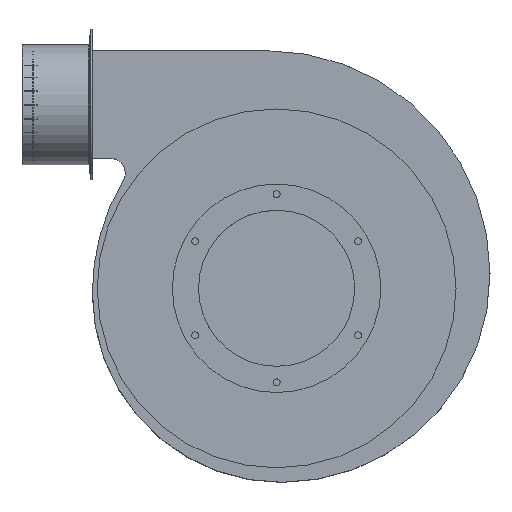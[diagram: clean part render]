
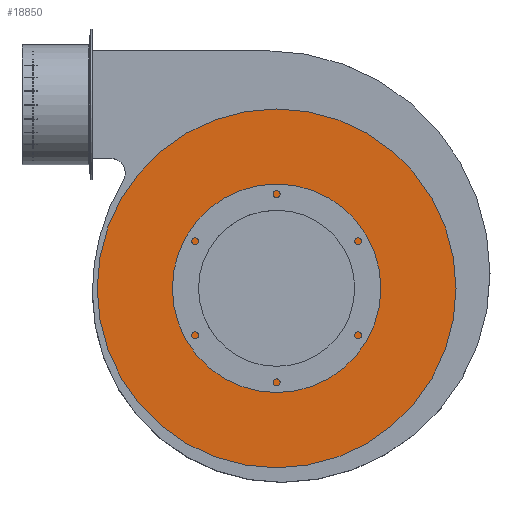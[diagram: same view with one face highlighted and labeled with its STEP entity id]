
A CAD part, top view. The second image highlights one B-rep face of the part: STEP entity #18850.
In plain terms, the highlighted planar face has unit normal (0, 0, 1).
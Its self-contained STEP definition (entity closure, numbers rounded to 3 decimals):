
#416=PLANE('',#19895);
#894=CIRCLE('',#19896,185.);
#895=CIRCLE('',#19897,82.5);
#1180=FACE_BOUND('',#3950,.T.);
#2767=FACE_OUTER_BOUND('',#3949,.T.);
#3949=EDGE_LOOP('',(#17389));
#3950=EDGE_LOOP('',(#17390));
#9467=VERTEX_POINT('',#38018);
#9468=VERTEX_POINT('',#38020);
#12126=EDGE_CURVE('',#9467,#9467,#894,.T.);
#12127=EDGE_CURVE('',#9468,#9468,#895,.T.);
#17389=ORIENTED_EDGE('',*,*,#12126,.T.);
#17390=ORIENTED_EDGE('',*,*,#12127,.F.);
#18850=ADVANCED_FACE('',(#2767,#1180),#416,.F.);
#19895=AXIS2_PLACEMENT_3D('',#38017,#23473,#23474);
#19896=AXIS2_PLACEMENT_3D('',#38019,#23475,#23476);
#19897=AXIS2_PLACEMENT_3D('',#38021,#23477,#23478);
#23473=DIRECTION('center_axis',(0.,0.,-1.));
#23474=DIRECTION('ref_axis',(-1.,0.,0.));
#23475=DIRECTION('center_axis',(0.,0.,
1.));
#23476=DIRECTION('ref_axis',(-1.,0.,0.));
#23477=DIRECTION('center_axis',(0.,0.,1.));
#23478=DIRECTION('ref_axis',(-0.001,1.,0.));
#38017=CARTESIAN_POINT('Origin',(1622.753,510.499,4.5));
#38018=CARTESIAN_POINT('',(1807.753,510.499,4.5));
#38019=CARTESIAN_POINT('Origin',(1622.753,510.499,4.5));
#38020=CARTESIAN_POINT('',(1622.853,427.999,4.5));
#38021=CARTESIAN_POINT('Origin',(1622.753,510.499,4.5));
